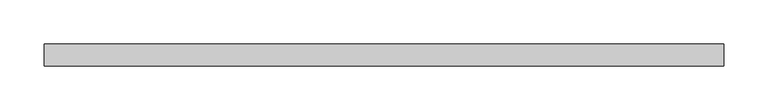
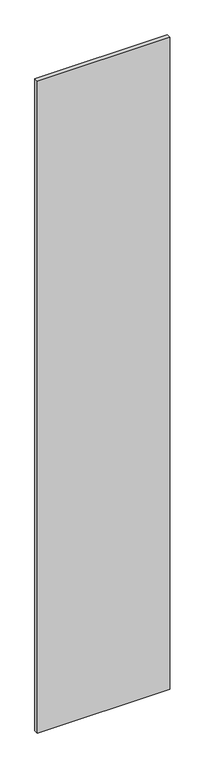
"""IFC4 building model written with IfcOpenShell, lengths in millimetres: plate geometry, 系统嵌板 : 玻璃."""

from ifc_helpers import new_model, si_unit, origin, origin_with_axes, place, context, project, spatial, polyline, outline, extrude, source, transform, mapped, element, save


def plate_ada13676(model_context):
    return source(origin(), model_context, "Body", "SweptSolid", [
        extrude(outline(polyline([(384.1753157, -12.5), (-384.1753157, -12.5), (-384.1753157, 12.5), (384.1753157, 12.5), (384.1753157, -12.5)])), origin_with_axes(), (0.0, 0.0, 1.0), 4000.0),
    ])


if __name__ == "__main__":
    model = new_model("IFC4")
    model_context = context("Model", 3, world=origin())
    ifc_project = project(units=[si_unit("LENGTHUNIT", "METRE", prefix="MILLI")], contexts=[model_context])
    site = spatial("IfcSite", under=ifc_project)
    building = spatial("IfcBuilding", under=site)
    placement = place(None, origin())
    plate_shape = plate_ada13676(model_context)
    element("IfcPlate", 1, ObjectType="系统嵌板 : 玻璃", at=placement, inside=building, context=model_context, shape_type="MappedRepresentation", body=[
        mapped(plate_shape, transform((0.0, 0.0, 0.0), x_axis=(1.0, 0.0, 0.0), y_axis=(0.0, 1.0, 0.0), z_axis=(0.0, 0.0, 1.0))),
    ])
    save(model, "model.ifc")
